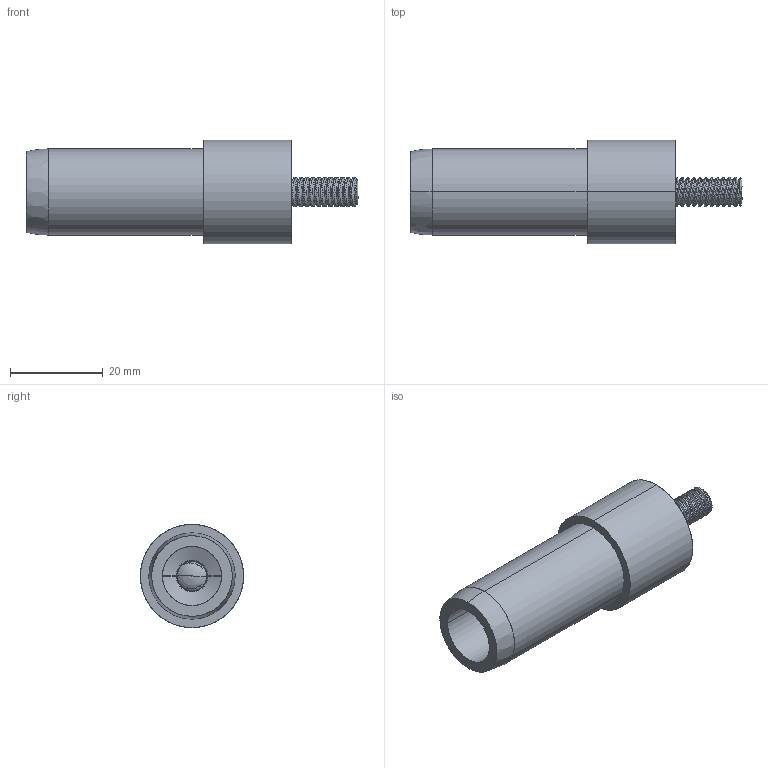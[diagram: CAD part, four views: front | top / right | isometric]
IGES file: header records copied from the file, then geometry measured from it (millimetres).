
Start section: SolidWorks IGES file using analytic representation for surfaces
Global section: file name: \\SERVER3\Design\_New Design Drive Folder List\_Design Vault\AAI\Modular Round Tube Connectors\Solidworks Models\STP Files\12202013\0.750 Inch Modular Connectors\DRP-002-0530-00.IGS; native system: SolidWorks 2013; preprocessor: SolidWorks 2013; author: tbraun; date: 131220.123605; units: inch
Bounding box: 71.44 x 22.23 x 22.23 mm (x, y, z)
Surface area: 7863.2 mm2 (no closed solid volume)
Topology: 0 solids, 0 shells, 247 faces, 3047 edges, 3044 vertices
Faces by surface type: revolution 219, bspline 28
